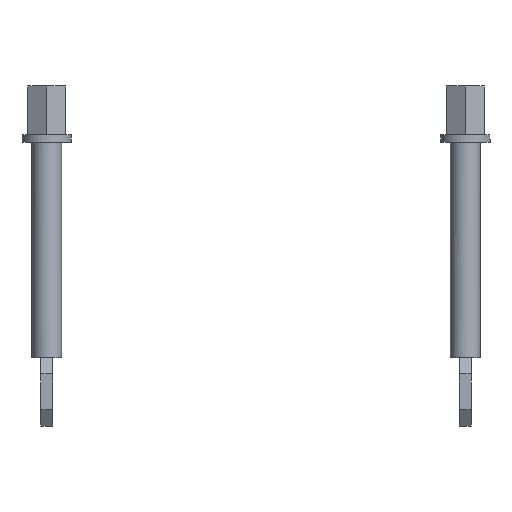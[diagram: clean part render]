
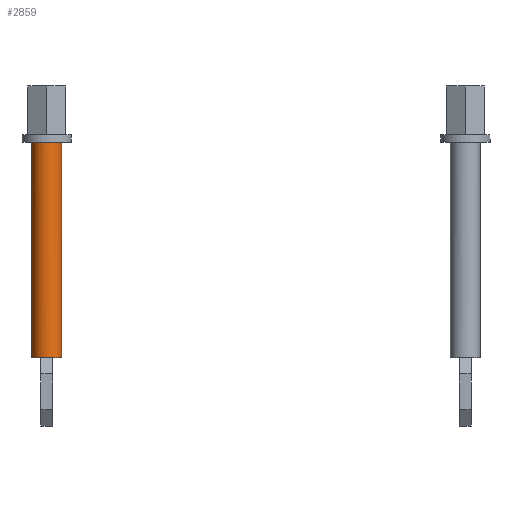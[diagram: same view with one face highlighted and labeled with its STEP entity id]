
A CAD part, left-side view. The second image highlights one B-rep face of the part: STEP entity #2859.
In plain terms, the highlighted cylindrical face has radius 5 mm (diameter 10 mm), a partial arc.
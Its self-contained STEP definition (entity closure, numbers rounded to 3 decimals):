
#177 = EDGE_CURVE ( 'NONE', #874, #4015, #5812, .T. ) ;
#346 = DIRECTION ( 'NONE',  ( 0., -1., 0. ) ) ;
#616 = CARTESIAN_POINT ( 'NONE',  ( -35., 70., -73.15 ) ) ;
#701 = DIRECTION ( 'NONE',  ( 0., -1., 0. ) ) ;
#832 = CARTESIAN_POINT ( 'NONE',  ( -35., 75., -1.15 ) ) ;
#834 = DIRECTION ( 'NONE',  ( 0., -1., 0. ) ) ;
#874 = VERTEX_POINT ( 'NONE', #2610 ) ;
#896 = CARTESIAN_POINT ( 'NONE',  ( -35., 70., -1.15 ) ) ;
#1116 = CIRCLE ( 'NONE', #7332, 5. ) ;
#1299 = CARTESIAN_POINT ( 'NONE',  ( -35., 65., 1.35 ) ) ;
#1305 = EDGE_CURVE ( 'NONE', #4015, #4535, #7188, .T. ) ;
#1364 = CARTESIAN_POINT ( 'NONE',  ( -40., 70., -73.15 ) ) ;
#1407 = EDGE_CURVE ( 'NONE', #5026, #874, #5485, .T. ) ;
#1482 = CARTESIAN_POINT ( 'NONE',  ( -35., 70., -73.15 ) ) ;
#1567 = EDGE_LOOP ( 'NONE', ( #2526, #4173, #4493, #7733, #2152, #2911, #1732 ) ) ;
#1590 = AXIS2_PLACEMENT_3D ( 'NONE', #1482, #4553, #834 ) ;
#1732 = ORIENTED_EDGE ( 'NONE', *, *, #1407, .F. ) ;
#1988 = CARTESIAN_POINT ( 'NONE',  ( -39.583, 68., -73.15 ) ) ;
#2152 = ORIENTED_EDGE ( 'NONE', *, *, #1305, .F. ) ;
#2174 = AXIS2_PLACEMENT_3D ( 'NONE', #896, #4724, #346 ) ;
#2469 = VERTEX_POINT ( 'NONE', #832 ) ;
#2526 = ORIENTED_EDGE ( 'NONE', *, *, #3576, .T. ) ;
#2610 = CARTESIAN_POINT ( 'NONE',  ( -35., 65., -73.15 ) ) ;
#2786 = EDGE_CURVE ( 'NONE', #2469, #4915, #4145, .T. ) ;
#2859 = ADVANCED_FACE ( 'NONE', ( #4031 ), #6665, .T. ) ;
#2881 = EDGE_CURVE ( 'NONE', #4314, #4915, #3545, .T. ) ;
#2911 = ORIENTED_EDGE ( 'NONE', *, *, #177, .F. ) ;
#3030 = CARTESIAN_POINT ( 'NONE',  ( -35., 75., 1.35 ) ) ;
#3073 = DIRECTION ( 'NONE',  ( 0., -1., 0. ) ) ;
#3210 = EDGE_CURVE ( 'NONE', #4535, #4314, #1116, .T. ) ;
#3545 = CIRCLE ( 'NONE', #6662, 5. ) ;
#3576 = EDGE_CURVE ( 'NONE', #5026, #2469, #7309, .T. ) ;
#3587 = DIRECTION ( 'NONE',  ( 0., 0., -1. ) ) ;
#3716 = VECTOR ( 'NONE', #5239, 1000. ) ;
#3872 = DIRECTION ( 'NONE',  ( 0., 0., -1. ) ) ;
#4015 = VERTEX_POINT ( 'NONE', #1988 ) ;
#4031 = FACE_OUTER_BOUND ( 'NONE', #1567, .T. ) ;
#4145 = LINE ( 'NONE', #3030, #5708 ) ;
#4173 = ORIENTED_EDGE ( 'NONE', *, *, #2786, .T. ) ;
#4239 = AXIS2_PLACEMENT_3D ( 'NONE', #616, #4953, #6185 ) ;
#4314 = VERTEX_POINT ( 'NONE', #5408 ) ;
#4351 = CARTESIAN_POINT ( 'NONE',  ( -35., 70., 1.35 ) ) ;
#4493 = ORIENTED_EDGE ( 'NONE', *, *, #2881, .F. ) ;
#4535 = VERTEX_POINT ( 'NONE', #1364 ) ;
#4537 = CARTESIAN_POINT ( 'NONE',  ( -35., 70., -73.15 ) ) ;
#4553 = DIRECTION ( 'NONE',  ( 0., 0., -1. ) ) ;
#4724 = DIRECTION ( 'NONE',  ( 0., 0., -1. ) ) ;
#4915 = VERTEX_POINT ( 'NONE', #7298 ) ;
#4953 = DIRECTION ( 'NONE',  ( 0., 0., -1. ) ) ;
#5026 = VERTEX_POINT ( 'NONE', #5615 ) ;
#5056 = DIRECTION ( 'NONE',  ( 0., -1., 0. ) ) ;
#5239 = DIRECTION ( 'NONE',  ( 0., 0., -1. ) ) ;
#5408 = CARTESIAN_POINT ( 'NONE',  ( -39.583, 72., -73.15 ) ) ;
#5485 = LINE ( 'NONE', #1299, #3716 ) ;
#5530 = CARTESIAN_POINT ( 'NONE',  ( -35., 70., -73.15 ) ) ;
#5615 = CARTESIAN_POINT ( 'NONE',  ( -35., 65., -1.15 ) ) ;
#5671 = DIRECTION ( 'NONE',  ( 0., 0., -1. ) ) ;
#5708 = VECTOR ( 'NONE', #3587, 1000. ) ;
#5812 = CIRCLE ( 'NONE', #4239, 5. ) ;
#6175 = DIRECTION ( 'NONE',  ( 0., 0., -1. ) ) ;
#6185 = DIRECTION ( 'NONE',  ( 0., -1., 0. ) ) ;
#6396 = AXIS2_PLACEMENT_3D ( 'NONE', #4351, #5671, #701 ) ;
#6662 = AXIS2_PLACEMENT_3D ( 'NONE', #4537, #3872, #5056 ) ;
#6665 = CYLINDRICAL_SURFACE ( 'NONE', #6396, 5. ) ;
#7188 = CIRCLE ( 'NONE', #1590, 5. ) ;
#7298 = CARTESIAN_POINT ( 'NONE',  ( -35., 75., -73.15 ) ) ;
#7309 = CIRCLE ( 'NONE', #2174, 5. ) ;
#7332 = AXIS2_PLACEMENT_3D ( 'NONE', #5530, #6175, #3073 ) ;
#7733 = ORIENTED_EDGE ( 'NONE', *, *, #3210, .F. ) ;
